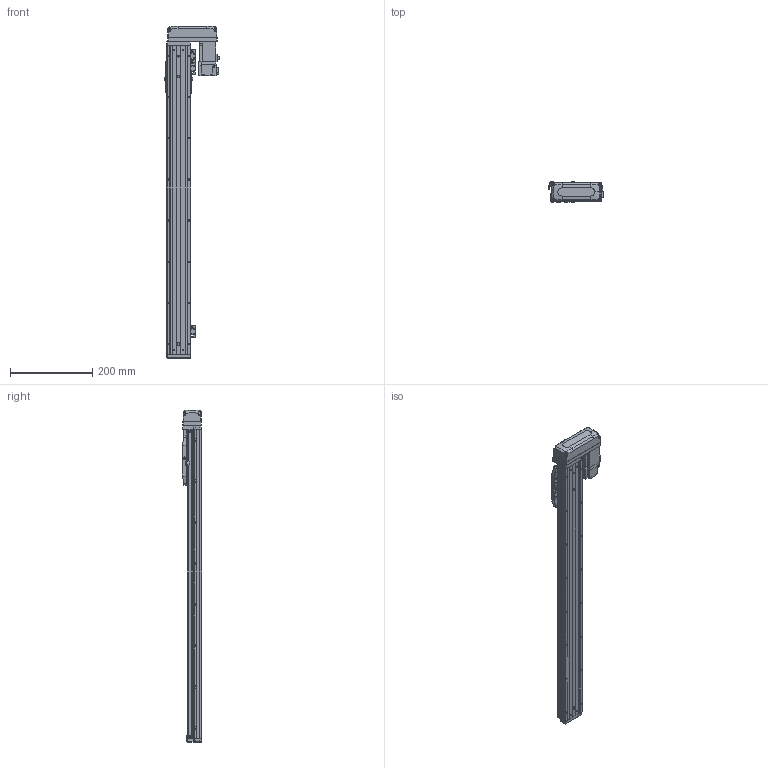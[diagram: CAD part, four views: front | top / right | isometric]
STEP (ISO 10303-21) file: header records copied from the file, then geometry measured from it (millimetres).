
FILE_DESCRIPTION (( 'STEP AP203' ), '1' );
FILE_NAME ('CTHA50-600-BL-M10-C4L.step', '2022-03-19T06:00:33', ( '微软用户' ), ( '微软中国' ), 'SwSTEP 2.0', 'SolidWorks 2020', '' );
FILE_SCHEMA (( 'CONFIG_CONTROL_DESIGN' ));
Length unit declared in the file: millimetre
Products named in the file (20): CTHA60-017; CTHA50-031; GBT 70.1-M4×12; GBT 70.3-M3℅6; KTHA50-001_750; CTHA60-016; CTHA50-015-2_CTHA60-015-2; KTHA50-004; CTHA60-021; CTHA60-033; KTHA50-005; HG-KR13（三菱）; GBT 70.1-M3×15; GBT77-2000 M3×3; GB¨uT 70.2-M3¡Á6_M3¡Á6; CTHA50-002; CTHA50-600-BL-M10-C4L; GBT 70.1-M3℅6; EE_SX911P_R; CTHA50-030
Assembly tree (60 placements, depth 2):
  CTHA50-600-BL-M10-C4L
    KTHA50-001_750
    KTHA50-004
    KTHA50-005
    GB¨uT 70.2-M3¡Á6_M3¡Á6  x10
    EE_SX911P_R  x3
    GBT77-2000 M3×3  x6
    GBT 70.1-M3℅6  x6
    CTHA60-017  x3
    GBT 70.1-M4×12  x10
    CTHA60-016  x2
    CTHA60-021  x2
    HG-KR13（三菱）
    CTHA50-002
    CTHA50-030  x2
    CTHA50-031
    GBT 70.3-M3℅6  x4
    CTHA50-015-2_CTHA60-015-2
    CTHA60-033
    GBT 70.1-M3×15  x4
Bounding box: 132.6 x 48 x 807 mm (x, y, z)
Volume: 1528629.3 mm3; surface area: 389809.8 mm2
Topology: 62 solids, 62 shells, 2553 faces, 6079 edges, 3726 vertices
Faces by surface type: plane 1446, cylinder 594, cone 355, torus 108, bspline 26, sphere 24
Entity records: 43977 total; most frequent: CARTESIAN_POINT 8107, DIRECTION 6865, ORIENTED_EDGE 6666, EDGE_CURVE 3333, VECTOR 2337, LINE 2337, AXIS2_PLACEMENT_3D 2264, VERTEX_POINT 2100
